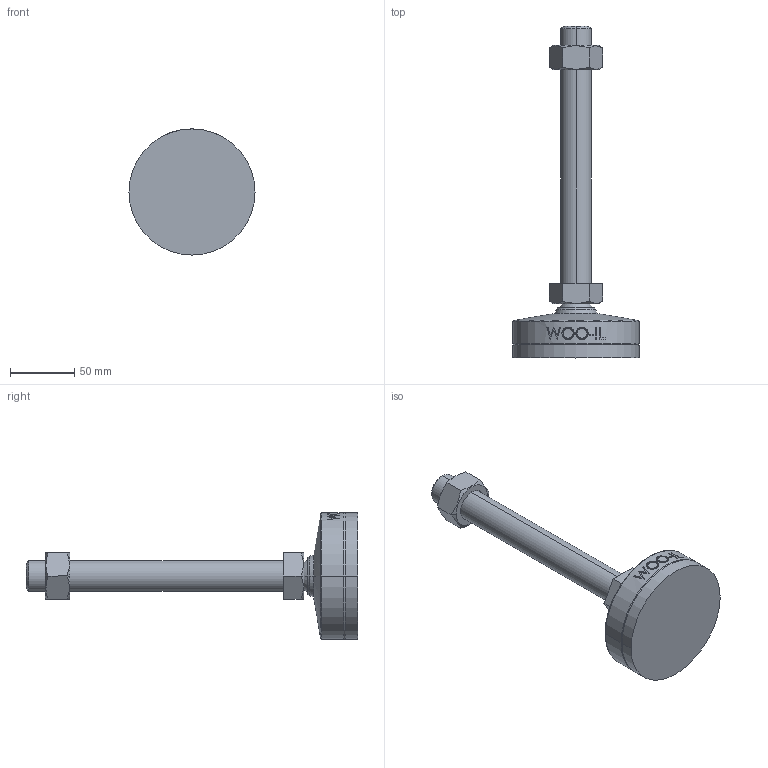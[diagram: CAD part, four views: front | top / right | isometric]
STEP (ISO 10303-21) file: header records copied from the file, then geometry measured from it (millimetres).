
FILE_DESCRIPTION (( 'STEP AP214' ), '1' );
FILE_NAME ('MFNR98-M24-200.step', '2021-02-22T09:09:28', ( '' ), ( '' ), 'SwSTEP 2.0', 'SolidWorks 2019', '' );
FILE_SCHEMA (( 'AUTOMOTIVE_DESIGN' ));
Length unit declared in the file: millimetre
Products named in the file (2): MFNR98-M24-200
Bounding box: 98 x 258 x 98 mm (x, y, z)
Volume: 363967.8 mm3; surface area: 48266.2 mm2
Topology: 2 solids, 2 shells, 103 faces, 239 edges, 152 vertices
Faces by surface type: plane 47, cone 18, cylinder 16, bspline 16, torus 4, sphere 2
Entity records: 4543 total; most frequent: CARTESIAN_POINT 2264, ORIENTED_EDGE 478, DIRECTION 423, EDGE_CURVE 239, AXIS2_PLACEMENT_3D 161, VERTEX_POINT 152, EDGE_LOOP 117, FACE_OUTER_BOUND 103
